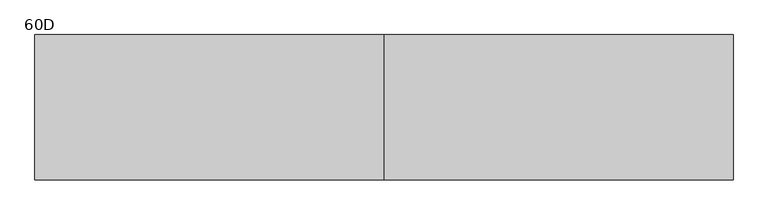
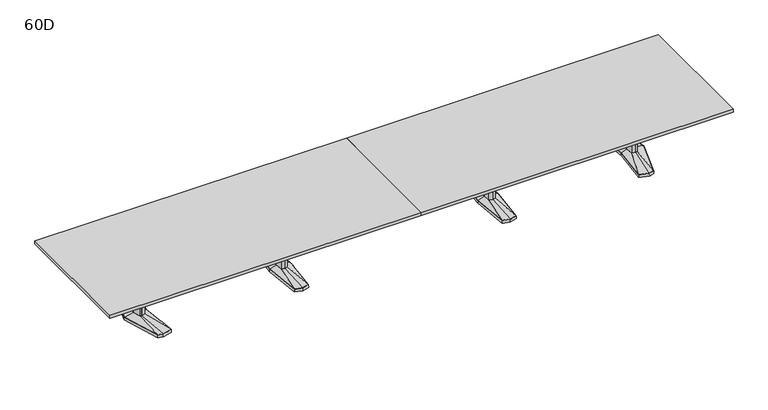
"""IFC4 building model written with IfcOpenShell, lengths in millimetres: furniture geometry, Coalesse_AM_Table_Conference_ETable2_Rectangular_24ft_AluminiumBase : 60D."""

from ifc_helpers import new_model, si_unit, frame, origin, place, context, project, spatial, polyline, outline, extrude, faceted_brep, source, transform, mapped, element, save
from ifc_brep_helpers import plane_surface, spline_surface, advanced_brep


def furniture_60d_1739f9b0(model_context):
    return source(origin(), model_context, "Body", "SolidModel", [
        faceted_brep([(1137.9666209, -433.8053819, 38.1), (1219.2, -455.556576, 38.1), (1300.4333791, -433.8053819, 38.1), (1338.2564774, 0.0, 38.1), (1300.4333791, 433.8053819, 38.1), (1219.2, 455.556576, 38.1), (1137.9666209, 433.8053819, 38.1), (1100.1435226, 0.0, 38.1), (1136.4817205, -435.0512063, 3.175), (1098.55, 0.0, 3.175), (1136.4817205, 435.0512063, 3.175), (1219.2, 457.2, 3.175), (1301.9182795, 435.0512063, 3.175), (1339.85, 0.0, 3.175), (1301.9182795, -435.0512063, 3.175), (1219.2, -457.2, 3.175), (1219.2, 429.2617927, 3.175), (1141.2323194, 408.3850278, 3.175), (1144.4980179, 382.9646737, 3.175), (1219.2, 402.9670094, 3.175), (1293.9019821, 382.9646737, 3.175), (1297.1676806, 408.3850278, 3.175), (1219.2, -429.2617927, 3.175), (1297.1676806, -408.3850278, 3.175), (1293.9019821, -382.9646737, 3.175), (1219.2, -402.9670094, 3.175), (1144.4980179, -382.9646737, 3.175), (1141.2323194, -408.3850278, 3.175), (1147.3425738, 114.6326257, 3.175), (1136.6573924, 0.0, 3.175), (1147.3425738, -114.6326257, 3.175), (1219.2, -133.8761372, 3.175), (1291.0574262, -114.6326257, 3.175), (1301.7426076, 0.0, 3.175), (1291.0574262, 114.6326257, 3.175), (1219.2, 133.8761372, 3.175), (1219.2, 429.2617927, 0.0), (1297.1676806, 408.3850278, 0.0), (1293.9019821, 382.9646737, 0.0), (1219.2, 402.9670094, 0.0), (1144.4980179, 382.9646737, 0.0), (1141.2323194, 408.3850278, 0.0), (1219.2, -429.2617927, 0.0), (1141.2323194, -408.3850278, 0.0), (1144.4980179, -382.9646737, 0.0), (1219.2, -402.9670094, 0.0), (1293.9019821, -382.9646737, 0.0), (1297.1676806, -408.3850278, 0.0), (1147.3425738, 114.6326257, 0.0), (1219.2, 133.8761372, 0.0), (1291.0574262, 114.6326257, 0.0), (1301.7426076, 0.0, 0.0), (1291.0574262, -114.6326257, 0.0), (1219.2, -133.8761372, 0.0), (1147.3425738, -114.6326257, 0.0), (1136.6573924, 0.0, 0.0)], [[[0, 1, 2, 3, 4, 5, 6, 7]], [[8, 9, 10, 11, 12, 13, 14, 15], [16, 17, 18, 19, 20, 21], [22, 23, 24, 25, 26, 27], [28, 29, 30, 31, 32, 33, 34, 35]], [[1, 0, 8, 15]], [[2, 1, 15, 14]], [[3, 2, 14, 13]], [[4, 3, 13, 12]], [[5, 4, 12, 11]], [[6, 5, 11, 10]], [[7, 6, 10, 9]], [[0, 7, 9, 8]], [[36, 37, 38, 39, 40, 41]], [[42, 43, 44, 45, 46, 47]], [[48, 49, 50, 51, 52, 53, 54, 55]], [[36, 41, 17, 16]], [[41, 40, 18, 17]], [[40, 39, 19, 18]], [[39, 38, 20, 19]], [[38, 37, 21, 20]], [[37, 36, 16, 21]], [[42, 47, 23, 22]], [[47, 46, 24, 23]], [[46, 45, 25, 24]], [[45, 44, 26, 25]], [[44, 43, 27, 26]], [[43, 42, 22, 27]], [[48, 55, 29, 28]], [[55, 54, 30, 29]], [[54, 53, 31, 30]], [[53, 52, 32, 31]], [[52, 51, 33, 32]], [[51, 50, 34, 33]], [[50, 49, 35, 34]], [[49, 48, 28, 35]]]),
        faceted_brep([(1182.8167166, 84.6900825, 698.5), (1174.9225513, 0.0, 698.5), (1182.8167166, -84.6900825, 698.5), (1219.2, -94.4335728, 698.5), (1255.5832834, -84.6900825, 698.5), (1263.4774487, 0.0, 698.5), (1255.5832834, 84.6900825, 698.5), (1219.2, 94.4335728, 698.5), (1182.8167166, 84.6900825, 63.5), (1219.2, 94.4335728, 63.5), (1255.5832834, 84.6900825, 63.5), (1263.4774487, 0.0, 63.5), (1255.5832834, -84.6900825, 63.5), (1219.2, -94.4335728, 63.5), (1182.8167166, -84.6900825, 63.5), (1174.9225513, 0.0, 63.5)], [[[0, 1, 2, 3, 4, 5, 6, 7]], [[8, 9, 10, 11, 12, 13, 14, 15]], [[1, 0, 8, 15]], [[2, 1, 15, 14]], [[3, 2, 14, 13]], [[4, 3, 13, 12]], [[5, 4, 12, 11]], [[6, 5, 11, 10]], [[7, 6, 10, 9]], [[0, 7, 9, 8]]]),
        advanced_brep(
        [(1182.8167166, 84.6900825, 63.5), (1174.9225513, 0.0, 63.5), (1182.8167166, -84.6900825, 63.5), (1219.2, -94.4335728, 63.5), (1255.5832834, -84.6900825, 63.5), (1263.4774487, 0.0, 63.5), (1255.5832834, 84.6900825, 63.5), (1219.2, 94.4335728, 63.5), (1137.9666209, 433.8053819, 38.1), (1219.2, 455.556576, 38.1), (1300.4333791, 433.8053819, 38.1), (1338.2564774, 0.0, 38.1), (1300.4333791, -433.8053819, 38.1), (1219.2, -455.556576, 38.1), (1137.9666209, -433.8053819, 38.1), (1100.1435226, 0.0, 38.1)],
        [
            (0, 1),
            (1, 2),
            (2, 3),
            (3, 4),
            (4, 5),
            (5, 6),
            (6, 7),
            (7, 0),
            (8, 9),
            (9, 10),
            (10, 11),
            (11, 12),
            (12, 13),
            (13, 14),
            (14, 15),
            (15, 8),
            (15, 1),
            (0, 8),
            (14, 2),
            (13, 3),
            (12, 4),
            (11, 5),
            (10, 6),
            (9, 7),
        ],
        [
            plane_surface(frame((1219.2, 0.0, 63.5), z_axis=(0.0, 0.0, 1.0000000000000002), x_axis=(-0.9659615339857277, -0.25868574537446, 0.0))),
            plane_surface(frame((1219.2, 0.0, 38.1), z_axis=(0.0, 0.0, -1.0000000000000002), x_axis=(-0.9659615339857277, -0.25868574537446, 0.0))),
            spline_surface(1, 1, [[(1137.9666209, 433.8053819, 38.1), (1182.8167166, 84.6900825, 63.5)], [(1100.1435226, 0.0, 38.1), (1174.9225513, 0.0, 63.5)]], [2, 2], [2, 2], [0.0, 1.0], [0.0, 1.0]),
            spline_surface(1, 1, [[(1100.1435226, 0.0, 38.1), (1174.9225513, 0.0, 63.5)], [(1137.9666209, -433.8053819, 38.1), (1182.8167166, -84.6900825, 63.5)]], [2, 2], [2, 2], [0.0, 1.0], [0.0, 1.0]),
            spline_surface(1, 1, [[(1137.9666209, -433.8053819, 38.1), (1182.8167166, -84.6900825, 63.5)], [(1219.2, -455.556576, 38.1), (1219.2, -94.4335728, 63.5)]], [2, 2], [2, 2], [0.0, 1.0], [0.0, 1.0]),
            spline_surface(1, 1, [[(1219.2, -455.556576, 38.1), (1219.2, -94.4335728, 63.5)], [(1300.4333791, -433.8053819, 38.1), (1255.5832834, -84.6900825, 63.5)]], [2, 2], [2, 2], [0.0, 1.0], [0.0, 1.0]),
            spline_surface(1, 1, [[(1300.4333791, -433.8053819, 38.1), (1255.5832834, -84.6900825, 63.5)], [(1338.2564774, 0.0, 38.1), (1263.4774487, 0.0, 63.5)]], [2, 2], [2, 2], [0.0, 1.0], [0.0, 1.0]),
            spline_surface(1, 1, [[(1338.2564774, 0.0, 38.1), (1263.4774487, 0.0, 63.5)], [(1300.4333791, 433.8053819, 38.1), (1255.5832834, 84.6900825, 63.5)]], [2, 2], [2, 2], [0.0, 1.0], [0.0, 1.0]),
            spline_surface(1, 1, [[(1300.4333791, 433.8053819, 38.1), (1255.5832834, 84.6900825, 63.5)], [(1219.2, 455.556576, 38.1), (1219.2, 94.4335728, 63.5)]], [2, 2], [2, 2], [0.0, 1.0], [0.0, 1.0]),
            spline_surface(1, 1, [[(1219.2, 455.556576, 38.1), (1219.2, 94.4335728, 63.5)], [(1137.9666209, 433.8053819, 38.1), (1182.8167166, 84.6900825, 63.5)]], [2, 2], [2, 2], [0.0, 1.0], [0.0, 1.0]),
        ],
        [
            (0, [[1, 2, 3, 4, 5, 6, 7, 8]]),
            (1, [[9, 10, 11, 12, 13, 14, 15, 16]]),
            (2, [[-16, 17, -1, 18]]),
            (3, [[-15, 19, -2, -17]]),
            (4, [[-14, 20, -3, -19]]),
            (5, [[-13, 21, -4, -20]]),
            (6, [[-12, 22, -5, -21]]),
            (7, [[-11, 23, -6, -22]]),
            (8, [[-10, 24, -7, -23]]),
            (9, [[-9, -18, -8, -24]]),
        ],
    ),
        faceted_brep([(-1300.4333791, -433.8053819, 38.1), (-1219.2, -455.556576, 38.1), (-1137.9666209, -433.8053819, 38.1), (-1100.1435226, 0.0, 38.1), (-1137.9666209, 433.8053819, 38.1), (-1219.2, 455.556576, 38.1), (-1300.4333791, 433.8053819, 38.1), (-1338.2564774, 0.0, 38.1), (-1301.9182795, -435.0512063, 3.175), (-1339.85, 0.0, 3.175), (-1301.9182795, 435.0512063, 3.175), (-1219.2, 457.2, 3.175), (-1136.4817205, 435.0512063, 3.175), (-1098.55, 0.0, 3.175), (-1136.4817205, -435.0512063, 3.175), (-1219.2, -457.2, 3.175), (-1219.2, 429.2617927, 3.175), (-1297.1676806, 408.3850278, 3.175), (-1293.9019821, 382.9646737, 3.175), (-1219.2, 402.9670094, 3.175), (-1144.4980179, 382.9646737, 3.175), (-1141.2323194, 408.3850278, 3.175), (-1219.2, -429.2617927, 3.175), (-1141.2323194, -408.3850278, 3.175), (-1144.4980179, -382.9646737, 3.175), (-1219.2, -402.9670094, 3.175), (-1293.9019821, -382.9646737, 3.175), (-1297.1676806, -408.3850278, 3.175), (-1291.0574262, 114.6326257, 3.175), (-1301.7426076, 0.0, 3.175), (-1291.0574262, -114.6326257, 3.175), (-1219.2, -133.8761372, 3.175), (-1147.3425738, -114.6326257, 3.175), (-1136.6573924, 0.0, 3.175), (-1147.3425738, 114.6326257, 3.175), (-1219.2, 133.8761372, 3.175), (-1219.2, 429.2617927, 0.0), (-1141.2323194, 408.3850278, 0.0), (-1144.4980179, 382.9646737, 0.0), (-1219.2, 402.9670094, 0.0), (-1293.9019821, 382.9646737, 0.0), (-1297.1676806, 408.3850278, 0.0), (-1219.2, -429.2617927, 0.0), (-1297.1676806, -408.3850278, 0.0), (-1293.9019821, -382.9646737, 0.0), (-1219.2, -402.9670094, 0.0), (-1144.4980179, -382.9646737, 0.0), (-1141.2323194, -408.3850278, 0.0), (-1291.0574262, 114.6326257, 0.0), (-1219.2, 133.8761372, 0.0), (-1147.3425738, 114.6326257, 0.0), (-1136.6573924, 0.0, 0.0), (-1147.3425738, -114.6326257, 0.0), (-1219.2, -133.8761372, 0.0), (-1291.0574262, -114.6326257, 0.0), (-1301.7426076, 0.0, 0.0)], [[[0, 1, 2, 3, 4, 5, 6, 7]], [[8, 9, 10, 11, 12, 13, 14, 15], [16, 17, 18, 19, 20, 21], [22, 23, 24, 25, 26, 27], [28, 29, 30, 31, 32, 33, 34, 35]], [[1, 0, 8, 15]], [[2, 1, 15, 14]], [[3, 2, 14, 13]], [[4, 3, 13, 12]], [[5, 4, 12, 11]], [[6, 5, 11, 10]], [[7, 6, 10, 9]], [[0, 7, 9, 8]], [[36, 37, 38, 39, 40, 41]], [[42, 43, 44, 45, 46, 47]], [[48, 49, 50, 51, 52, 53, 54, 55]], [[36, 41, 17, 16]], [[41, 40, 18, 17]], [[40, 39, 19, 18]], [[39, 38, 20, 19]], [[38, 37, 21, 20]], [[37, 36, 16, 21]], [[42, 47, 23, 22]], [[47, 46, 24, 23]], [[46, 45, 25, 24]], [[45, 44, 26, 25]], [[44, 43, 27, 26]], [[43, 42, 22, 27]], [[48, 55, 29, 28]], [[55, 54, 30, 29]], [[54, 53, 31, 30]], [[53, 52, 32, 31]], [[52, 51, 33, 32]], [[51, 50, 34, 33]], [[50, 49, 35, 34]], [[49, 48, 28, 35]]]),
        faceted_brep([(-1255.5832834, 84.6900825, 698.5), (-1263.4774487, 0.0, 698.5), (-1255.5832834, -84.6900825, 698.5), (-1219.2, -94.4335728, 698.5), (-1182.8167166, -84.6900825, 698.5), (-1174.9225513, 0.0, 698.5), (-1182.8167166, 84.6900825, 698.5), (-1219.2, 94.4335728, 698.5), (-1255.5832834, 84.6900825, 63.5), (-1219.2, 94.4335728, 63.5), (-1182.8167166, 84.6900825, 63.5), (-1174.9225513, 0.0, 63.5), (-1182.8167166, -84.6900825, 63.5), (-1219.2, -94.4335728, 63.5), (-1255.5832834, -84.6900825, 63.5), (-1263.4774487, 0.0, 63.5)], [[[0, 1, 2, 3, 4, 5, 6, 7]], [[8, 9, 10, 11, 12, 13, 14, 15]], [[1, 0, 8, 15]], [[2, 1, 15, 14]], [[3, 2, 14, 13]], [[4, 3, 13, 12]], [[5, 4, 12, 11]], [[6, 5, 11, 10]], [[7, 6, 10, 9]], [[0, 7, 9, 8]]]),
        advanced_brep(
        [(-1255.5832834, 84.6900825, 63.5), (-1263.4774487, 0.0, 63.5), (-1255.5832834, -84.6900825, 63.5), (-1219.2, -94.4335728, 63.5), (-1182.8167166, -84.6900825, 63.5), (-1174.9225513, 0.0, 63.5), (-1182.8167166, 84.6900825, 63.5), (-1219.2, 94.4335728, 63.5), (-1300.4333791, 433.8053819, 38.1), (-1219.2, 455.556576, 38.1), (-1137.9666209, 433.8053819, 38.1), (-1100.1435226, 0.0, 38.1), (-1137.9666209, -433.8053819, 38.1), (-1219.2, -455.556576, 38.1), (-1300.4333791, -433.8053819, 38.1), (-1338.2564774, 0.0, 38.1)],
        [
            (0, 1),
            (1, 2),
            (2, 3),
            (3, 4),
            (4, 5),
            (5, 6),
            (6, 7),
            (7, 0),
            (8, 9),
            (9, 10),
            (10, 11),
            (11, 12),
            (12, 13),
            (13, 14),
            (14, 15),
            (15, 8),
            (15, 1),
            (0, 8),
            (14, 2),
            (13, 3),
            (12, 4),
            (11, 5),
            (10, 6),
            (9, 7),
        ],
        [
            plane_surface(frame((-1219.2, 0.0, 63.5), z_axis=(0.0, 0.0, 1.0000000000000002), x_axis=(-0.9659615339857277, -0.25868574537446, 0.0))),
            plane_surface(frame((-1219.2, 0.0, 38.1), z_axis=(0.0, 0.0, -1.0000000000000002), x_axis=(-0.9659615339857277, -0.25868574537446, 0.0))),
            spline_surface(1, 1, [[(-1300.4333791, 433.8053819, 38.1), (-1255.5832834, 84.6900825, 63.5)], [(-1338.2564774, 0.0, 38.1), (-1263.4774487, 0.0, 63.5)]], [2, 2], [2, 2], [0.0, 1.0], [0.0, 1.0]),
            spline_surface(1, 1, [[(-1338.2564774, 0.0, 38.1), (-1263.4774487, 0.0, 63.5)], [(-1300.4333791, -433.8053819, 38.1), (-1255.5832834, -84.6900825, 63.5)]], [2, 2], [2, 2], [0.0, 1.0], [0.0, 1.0]),
            spline_surface(1, 1, [[(-1300.4333791, -433.8053819, 38.1), (-1255.5832834, -84.6900825, 63.5)], [(-1219.2, -455.556576, 38.1), (-1219.2, -94.4335728, 63.5)]], [2, 2], [2, 2], [0.0, 1.0], [0.0, 1.0]),
            spline_surface(1, 1, [[(-1219.2, -455.556576, 38.1), (-1219.2, -94.4335728, 63.5)], [(-1137.9666209, -433.8053819, 38.1), (-1182.8167166, -84.6900825, 63.5)]], [2, 2], [2, 2], [0.0, 1.0], [0.0, 1.0]),
            spline_surface(1, 1, [[(-1137.9666209, -433.8053819, 38.1), (-1182.8167166, -84.6900825, 63.5)], [(-1100.1435226, 0.0, 38.1), (-1174.9225513, 0.0, 63.5)]], [2, 2], [2, 2], [0.0, 1.0], [0.0, 1.0]),
            spline_surface(1, 1, [[(-1100.1435226, 0.0, 38.1), (-1174.9225513, 0.0, 63.5)], [(-1137.9666209, 433.8053819, 38.1), (-1182.8167166, 84.6900825, 63.5)]], [2, 2], [2, 2], [0.0, 1.0], [0.0, 1.0]),
            spline_surface(1, 1, [[(-1137.9666209, 433.8053819, 38.1), (-1182.8167166, 84.6900825, 63.5)], [(-1219.2, 455.556576, 38.1), (-1219.2, 94.4335728, 63.5)]], [2, 2], [2, 2], [0.0, 1.0], [0.0, 1.0]),
            spline_surface(1, 1, [[(-1219.2, 455.556576, 38.1), (-1219.2, 94.4335728, 63.5)], [(-1300.4333791, 433.8053819, 38.1), (-1255.5832834, 84.6900825, 63.5)]], [2, 2], [2, 2], [0.0, 1.0], [0.0, 1.0]),
        ],
        [
            (0, [[1, 2, 3, 4, 5, 6, 7, 8]]),
            (1, [[9, 10, 11, 12, 13, 14, 15, 16]]),
            (2, [[-16, 17, -1, 18]]),
            (3, [[-15, 19, -2, -17]]),
            (4, [[-14, 20, -3, -19]]),
            (5, [[-13, 21, -4, -20]]),
            (6, [[-12, 22, -5, -21]]),
            (7, [[-11, 23, -6, -22]]),
            (8, [[-10, 24, -7, -23]]),
            (9, [[-9, -18, -8, -24]]),
        ],
    ),
        faceted_brep([(2852.8994335, 455.5848221, 38.1), (2743.3218777, 426.2263816, 38.1), (2784.4851217, 0.0, 38.1), (2743.3218777, -426.2263816, 38.1), (2852.8994335, -455.5848221, 38.1), (2909.0257896, -440.5478297, 38.1), (3046.3371769, 0.0, 38.1), (2909.0257896, 440.5478297, 38.1), (2852.8994254, 457.2283104, 3.175), (2910.2811972, 441.8549756, 3.175), (3048.0, 0.0, 3.175), (2910.2811972, -441.8549756, 3.175), (2852.8994254, -457.2283104, 3.175), (2741.6125, -427.4118891, 3.175), (2782.8902356, 0.0, 3.175), (2741.6125, 427.4118891, 3.175), (2856.488865, 428.3273875, 3.175), (2751.4405728, 402.1057253, 3.175), (2759.559268, 377.985069, 3.175), (2860.0782966, 401.0699529, 3.175), (2910.6379225, 387.524361, 3.175), (2909.8318561, 414.0360954, 3.175), (2856.488865, -428.3273875, 3.175), (2909.8318561, -414.0360954, 3.175), (2910.6379225, -387.524361, 3.175), (2860.0782966, -401.0699529, 3.175), (2759.559268, -377.985069, 3.175), (2751.4405728, -402.1057253, 3.175), (2983.0841121, 0.0, 3.175), (2950.8147111, 120.4193755, 3.175), (2902.1674722, 133.471665, 3.175), (2822.2868026, 119.4176561, 3.175), (2811.1555966, 0.0, 3.175), (2822.2868026, -119.4176561, 3.175), (2902.1674722, -133.471665, 3.175), (2950.8147111, -120.4193755, 3.175), (2856.488865, 428.3273875, 0.0), (2909.8318561, 414.0360954, 0.0), (2910.6379225, 387.524361, 0.0), (2860.0782966, 401.0699529, 0.0), (2759.559268, 377.985069, 0.0), (2751.4405728, 402.1057253, 0.0), (2856.488865, -428.3273875, 0.0), (2751.4405728, -402.1057253, 0.0), (2759.559268, -377.985069, 0.0), (2860.0782966, -401.0699529, 0.0), (2910.6379225, -387.524361, 0.0), (2909.8318561, -414.0360954, 0.0), (2983.0841121, 0.0, 0.0), (2950.8147111, -120.4193755, 0.0), (2902.1674722, -133.471665, 0.0), (2822.2868026, -119.4176561, 0.0), (2811.1555966, 0.0, 0.0), (2822.2868026, 119.4176561, 0.0), (2902.1674722, 133.471665, 0.0), (2950.8147111, 120.4193755, 0.0)], [[[0, 1, 2, 3, 4, 5, 6, 7]], [[8, 9, 10, 11, 12, 13, 14, 15], [16, 17, 18, 19, 20, 21], [22, 23, 24, 25, 26, 27], [28, 29, 30, 31, 32, 33, 34, 35]], [[7, 9, 8, 0]], [[6, 10, 9, 7]], [[5, 11, 10, 6]], [[4, 12, 11, 5]], [[3, 13, 12, 4]], [[2, 14, 13, 3]], [[1, 15, 14, 2]], [[0, 8, 15, 1]], [[36, 37, 38, 39, 40, 41]], [[42, 43, 44, 45, 46, 47]], [[48, 49, 50, 51, 52, 53, 54, 55]], [[36, 16, 21, 37]], [[37, 21, 20, 38]], [[38, 20, 19, 39]], [[39, 19, 18, 40]], [[40, 18, 17, 41]], [[41, 17, 16, 36]], [[42, 22, 27, 43]], [[43, 27, 26, 44]], [[44, 26, 25, 45]], [[45, 25, 24, 46]], [[46, 24, 23, 47]], [[47, 23, 22, 42]], [[48, 28, 35, 49]], [[49, 35, 34, 50]], [[50, 34, 33, 51]], [[51, 33, 32, 52]], [[52, 32, 31, 53]], [[53, 31, 30, 54]], [[54, 30, 29, 55]], [[55, 29, 28, 48]]]),
        faceted_brep([(2943.6398336, 0.0, 698.5), (2919.7046046, 89.3188359, 698.5), (2902.8512484, 93.8406728, 698.5), (2900.4514011, 94.4845635, 698.5), (2857.523896, 86.9320037, 698.5), (2849.4207556, 0.0, 698.5), (2857.523896, -86.9320037, 698.5), (2900.4514011, -94.4845635, 698.5), (2902.8512484, -93.8406728, 698.5), (2919.7046046, -89.3188359, 698.5), (2943.6398336, 0.0, 63.5), (2919.7046046, -89.3188359, 63.5), (2902.8512484, -93.8406728, 63.5), (2900.4514011, -94.4845635, 63.5), (2857.523896, -86.9320037, 63.5), (2849.4207556, 0.0, 63.5), (2857.523896, 86.9320037, 63.5), (2900.4514011, 94.4845635, 63.5), (2902.8512484, 93.8406728, 63.5), (2919.7046046, 89.3188359, 63.5)], [[[0, 1, 2, 3, 4, 5, 6, 7, 8, 9]], [[10, 11, 12, 13, 14, 15, 16, 17, 18, 19]], [[9, 11, 10, 0]], [[8, 12, 11, 9]], [[7, 13, 12, 8]], [[6, 14, 13, 7]], [[5, 15, 14, 6]], [[4, 16, 15, 5]], [[3, 17, 16, 4]], [[2, 18, 17, 3]], [[1, 19, 18, 2]], [[0, 10, 19, 1]]]),
        advanced_brep(
        [(2900.4514011, 94.4845635, 63.5), (2857.523896, 86.9320037, 63.5), (2849.4207556, 0.0, 63.5), (2857.523896, -86.9320037, 63.5), (2900.4514011, -94.4845635, 63.5), (2919.7046046, -89.3188359, 63.5), (2943.6398336, 0.0, 63.5), (2919.7046046, 89.3188359, 63.5), (2852.8994335, 455.5848221, 38.1), (2909.0257896, 440.5478297, 38.1), (3046.3371769, 0.0, 38.1), (2909.0257896, -440.5478297, 38.1), (2852.8994335, -455.5848221, 38.1), (2743.3218777, -426.2263816, 38.1), (2784.4851217, 0.0, 38.1), (2743.3218777, 426.2263816, 38.1)],
        [
            (0, 1),
            (1, 2),
            (2, 3),
            (3, 4),
            (4, 5),
            (5, 6),
            (6, 7),
            (7, 0),
            (8, 9),
            (9, 10),
            (10, 11),
            (11, 12),
            (12, 13),
            (13, 14),
            (14, 15),
            (15, 8),
            (8, 0),
            (7, 9),
            (6, 10),
            (5, 11),
            (4, 12),
            (3, 13),
            (2, 14),
            (1, 15),
        ],
        [
            plane_surface(frame((2893.5525491, 0.0, 63.5), z_axis=(0.0, 0.0, 1.0), x_axis=(-0.25884244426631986, -0.9659195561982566, 0.0))),
            plane_surface(frame((2855.1645625, 0.0, 38.1), z_axis=(0.0, 0.0, -1.0), x_axis=(-0.25884244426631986, -0.9659195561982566, 0.0))),
            spline_surface(1, 1, [[(2852.8994335, 455.5848221, 38.1), (2909.0257896, 440.5478297, 38.1)], [(2900.4514011, 94.4845635, 63.5), (2919.7046046, 89.3188359, 63.5)]], [2, 2], [2, 2], [0.0, 1.0], [0.0, 1.0]),
            spline_surface(1, 1, [[(2909.0257896, 440.5478297, 38.1), (3046.3371769, 0.0, 38.1)], [(2919.7046046, 89.3188359, 63.5), (2943.6398336, 0.0, 63.5)]], [2, 2], [2, 2], [0.0, 1.0], [0.0, 1.0]),
            spline_surface(1, 1, [[(3046.3371769, 0.0, 38.1), (2909.0257896, -440.5478297, 38.1)], [(2943.6398336, 0.0, 63.5), (2919.7046046, -89.3188359, 63.5)]], [2, 2], [2, 2], [0.0, 1.0], [0.0, 1.0]),
            spline_surface(1, 1, [[(2909.0257896, -440.5478297, 38.1), (2852.8994335, -455.5848221, 38.1)], [(2919.7046046, -89.3188359, 63.5), (2900.4514011, -94.4845635, 63.5)]], [2, 2], [2, 2], [0.0, 1.0], [0.0, 1.0]),
            spline_surface(1, 1, [[(2852.8994335, -455.5848221, 38.1), (2743.3218777, -426.2263816, 38.1)], [(2900.4514011, -94.4845635, 63.5), (2857.523896, -86.9320037, 63.5)]], [2, 2], [2, 2], [0.0, 1.0], [0.0, 1.0]),
            spline_surface(1, 1, [[(2743.3218777, -426.2263816, 38.1), (2784.4851217, 0.0, 38.1)], [(2857.523896, -86.9320037, 63.5), (2849.4207556, 0.0, 63.5)]], [2, 2], [2, 2], [0.0, 1.0], [0.0, 1.0]),
            spline_surface(1, 1, [[(2784.4851217, 0.0, 38.1), (2743.3218777, 426.2263816, 38.1)], [(2849.4207556, 0.0, 63.5), (2857.523896, 86.9320037, 63.5)]], [2, 2], [2, 2], [0.0, 1.0], [0.0, 1.0]),
            spline_surface(1, 1, [[(2743.3218777, 426.2263816, 38.1), (2852.8994335, 455.5848221, 38.1)], [(2857.523896, 86.9320037, 63.5), (2900.4514011, 94.4845635, 63.5)]], [2, 2], [2, 2], [0.0, 1.0], [0.0, 1.0]),
        ],
        [
            (0, [[1, 2, 3, 4, 5, 6, 7, 8]]),
            (1, [[9, 10, 11, 12, 13, 14, 15, 16]]),
            (2, [[17, -8, 18, -9]]),
            (3, [[-18, -7, 19, -10]]),
            (4, [[-19, -6, 20, -11]]),
            (5, [[-20, -5, 21, -12]]),
            (6, [[-21, -4, 22, -13]]),
            (7, [[-22, -3, 23, -14]]),
            (8, [[-23, -2, 24, -15]]),
            (9, [[-24, -1, -17, -16]]),
        ],
    ),
        faceted_brep([(-2852.8994335, 455.5848221, 38.1), (-2909.0257896, 440.5478297, 38.1), (-3046.3371769, 0.0, 38.1), (-2909.0257896, -440.5478297, 38.1), (-2852.8994335, -455.5848221, 38.1), (-2743.3218777, -426.2263816, 38.1), (-2784.4851217, 0.0, 38.1), (-2743.3218777, 426.2263816, 38.1), (-2852.8994254, 457.2283104, 3.175), (-2741.6125, 427.4118891, 3.175), (-2782.8902356, 0.0, 3.175), (-2741.6125, -427.4118891, 3.175), (-2852.8994254, -457.2283104, 3.175), (-2910.2811972, -441.8549756, 3.175), (-3048.0, 0.0, 3.175), (-2910.2811972, 441.8549756, 3.175), (-2856.488865, 428.3273875, 3.175), (-2909.8318561, 414.0360954, 3.175), (-2910.6379225, 387.524361, 3.175), (-2860.0782966, 401.0699529, 3.175), (-2759.559268, 377.985069, 3.175), (-2751.4405728, 402.1057253, 3.175), (-2856.488865, -428.3273875, 3.175), (-2751.4405728, -402.1057253, 3.175), (-2759.559268, -377.985069, 3.175), (-2860.0782966, -401.0699529, 3.175), (-2910.6379225, -387.524361, 3.175), (-2909.8318561, -414.0360954, 3.175), (-2983.0841121, 0.0, 3.175), (-2950.8147111, -120.4193755, 3.175), (-2902.1674722, -133.471665, 3.175), (-2822.2868026, -119.4176561, 3.175), (-2811.1555966, 0.0, 3.175), (-2822.2868026, 119.4176561, 3.175), (-2902.1674722, 133.471665, 3.175), (-2950.8147111, 120.4193755, 3.175), (-2856.488865, 428.3273875, 0.0), (-2751.4405728, 402.1057253, 0.0), (-2759.559268, 377.985069, 0.0), (-2860.0782966, 401.0699529, 0.0), (-2910.6379225, 387.524361, 0.0), (-2909.8318561, 414.0360954, 0.0), (-2856.488865, -428.3273875, 0.0), (-2909.8318561, -414.0360954, 0.0), (-2910.6379225, -387.524361, 0.0), (-2860.0782966, -401.0699529, 0.0), (-2759.559268, -377.985069, 0.0), (-2751.4405728, -402.1057253, 0.0), (-2983.0841121, 0.0, 0.0), (-2950.8147111, 120.4193755, 0.0), (-2902.1674722, 133.471665, 0.0), (-2822.2868026, 119.4176561, 0.0), (-2811.1555966, 0.0, 0.0), (-2822.2868026, -119.4176561, 0.0), (-2902.1674722, -133.471665, 0.0), (-2950.8147111, -120.4193755, 0.0)], [[[0, 1, 2, 3, 4, 5, 6, 7]], [[8, 9, 10, 11, 12, 13, 14, 15], [16, 17, 18, 19, 20, 21], [22, 23, 24, 25, 26, 27], [28, 29, 30, 31, 32, 33, 34, 35]], [[1, 0, 8, 15]], [[2, 1, 15, 14]], [[3, 2, 14, 13]], [[4, 3, 13, 12]], [[5, 4, 12, 11]], [[6, 5, 11, 10]], [[7, 6, 10, 9]], [[0, 7, 9, 8]], [[36, 37, 38, 39, 40, 41]], [[42, 43, 44, 45, 46, 47]], [[48, 49, 50, 51, 52, 53, 54, 55]], [[36, 41, 17, 16]], [[41, 40, 18, 17]], [[40, 39, 19, 18]], [[39, 38, 20, 19]], [[38, 37, 21, 20]], [[37, 36, 16, 21]], [[42, 47, 23, 22]], [[47, 46, 24, 23]], [[46, 45, 25, 24]], [[45, 44, 26, 25]], [[44, 43, 27, 26]], [[43, 42, 22, 27]], [[48, 55, 29, 28]], [[55, 54, 30, 29]], [[54, 53, 31, 30]], [[53, 52, 32, 31]], [[52, 51, 33, 32]], [[51, 50, 34, 33]], [[50, 49, 35, 34]], [[49, 48, 28, 35]]]),
        faceted_brep([(-2943.6398336, 0.0, 698.5), (-2919.7046046, -89.3188359, 698.5), (-2902.8512484, -93.8406728, 698.5), (-2900.4514011, -94.4845635, 698.5), (-2857.523896, -86.9320037, 698.5), (-2849.4207556, 0.0, 698.5), (-2857.523896, 86.9320037, 698.5), (-2900.4514011, 94.4845635, 698.5), (-2902.8512484, 93.8406728, 698.5), (-2919.7046046, 89.3188359, 698.5), (-2943.6398336, 0.0, 63.5), (-2919.7046046, 89.3188359, 63.5), (-2902.8512484, 93.8406728, 63.5), (-2900.4514011, 94.4845635, 63.5), (-2857.523896, 86.9320037, 63.5), (-2849.4207556, 0.0, 63.5), (-2857.523896, -86.9320037, 63.5), (-2900.4514011, -94.4845635, 63.5), (-2902.8512484, -93.8406728, 63.5), (-2919.7046046, -89.3188359, 63.5)], [[[0, 1, 2, 3, 4, 5, 6, 7, 8, 9]], [[10, 11, 12, 13, 14, 15, 16, 17, 18, 19]], [[1, 0, 10, 19]], [[2, 1, 19, 18]], [[3, 2, 18, 17]], [[4, 3, 17, 16]], [[5, 4, 16, 15]], [[6, 5, 15, 14]], [[7, 6, 14, 13]], [[8, 7, 13, 12]], [[9, 8, 12, 11]], [[0, 9, 11, 10]]]),
        advanced_brep(
        [(-2900.4514011, 94.4845635, 63.5), (-2919.7046046, 89.3188359, 63.5), (-2943.6398336, 0.0, 63.5), (-2919.7046046, -89.3188359, 63.5), (-2900.4514011, -94.4845635, 63.5), (-2857.523896, -86.9320037, 63.5), (-2849.4207556, 0.0, 63.5), (-2857.523896, 86.9320037, 63.5), (-2852.8994335, 455.5848221, 38.1), (-2743.3218777, 426.2263816, 38.1), (-2784.4851217, 0.0, 38.1), (-2743.3218777, -426.2263816, 38.1), (-2852.8994335, -455.5848221, 38.1), (-2909.0257896, -440.5478297, 38.1), (-3046.3371769, 0.0, 38.1), (-2909.0257896, 440.5478297, 38.1)],
        [
            (0, 1),
            (1, 2),
            (2, 3),
            (3, 4),
            (4, 5),
            (5, 6),
            (6, 7),
            (7, 0),
            (8, 9),
            (9, 10),
            (10, 11),
            (11, 12),
            (12, 13),
            (13, 14),
            (14, 15),
            (15, 8),
            (15, 1),
            (0, 8),
            (14, 2),
            (13, 3),
            (12, 4),
            (11, 5),
            (10, 6),
            (9, 7),
        ],
        [
            plane_surface(frame((-2893.5525491, 0.0, 63.5), z_axis=(0.0, 0.0, 1.0), x_axis=(0.25884244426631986, -0.9659195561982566, 0.0))),
            plane_surface(frame((-2855.1645625, 0.0, 38.1), z_axis=(0.0, 0.0, -1.0), x_axis=(0.25884244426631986, -0.9659195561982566, 0.0))),
            spline_surface(1, 1, [[(-2852.8994335, 455.5848221, 38.1), (-2900.4514011, 94.4845635, 63.5)], [(-2909.0257896, 440.5478297, 38.1), (-2919.7046046, 89.3188359, 63.5)]], [2, 2], [2, 2], [0.0, 1.0], [0.0, 1.0]),
            spline_surface(1, 1, [[(-2909.0257896, 440.5478297, 38.1), (-2919.7046046, 89.3188359, 63.5)], [(-3046.3371769, 0.0, 38.1), (-2943.6398336, 0.0, 63.5)]], [2, 2], [2, 2], [0.0, 1.0], [0.0, 1.0]),
            spline_surface(1, 1, [[(-3046.3371769, 0.0, 38.1), (-2943.6398336, 0.0, 63.5)], [(-2909.0257896, -440.5478297, 38.1), (-2919.7046046, -89.3188359, 63.5)]], [2, 2], [2, 2], [0.0, 1.0], [0.0, 1.0]),
            spline_surface(1, 1, [[(-2909.0257896, -440.5478297, 38.1), (-2919.7046046, -89.3188359, 63.5)], [(-2852.8994335, -455.5848221, 38.1), (-2900.4514011, -94.4845635, 63.5)]], [2, 2], [2, 2], [0.0, 1.0], [0.0, 1.0]),
            spline_surface(1, 1, [[(-2852.8994335, -455.5848221, 38.1), (-2900.4514011, -94.4845635, 63.5)], [(-2743.3218777, -426.2263816, 38.1), (-2857.523896, -86.9320037, 63.5)]], [2, 2], [2, 2], [0.0, 1.0], [0.0, 1.0]),
            spline_surface(1, 1, [[(-2743.3218777, -426.2263816, 38.1), (-2857.523896, -86.9320037, 63.5)], [(-2784.4851217, 0.0, 38.1), (-2849.4207556, 0.0, 63.5)]], [2, 2], [2, 2], [0.0, 1.0], [0.0, 1.0]),
            spline_surface(1, 1, [[(-2784.4851217, 0.0, 38.1), (-2849.4207556, 0.0, 63.5)], [(-2743.3218777, 426.2263816, 38.1), (-2857.523896, 86.9320037, 63.5)]], [2, 2], [2, 2], [0.0, 1.0], [0.0, 1.0]),
            spline_surface(1, 1, [[(-2743.3218777, 426.2263816, 38.1), (-2857.523896, 86.9320037, 63.5)], [(-2852.8994335, 455.5848221, 38.1), (-2900.4514011, 94.4845635, 63.5)]], [2, 2], [2, 2], [0.0, 1.0], [0.0, 1.0]),
        ],
        [
            (0, [[1, 2, 3, 4, 5, 6, 7, 8]]),
            (1, [[9, 10, 11, 12, 13, 14, 15, 16]]),
            (2, [[-16, 17, -1, 18]]),
            (3, [[-15, 19, -2, -17]]),
            (4, [[-14, 20, -3, -19]]),
            (5, [[-13, 21, -4, -20]]),
            (6, [[-12, 22, -5, -21]]),
            (7, [[-11, 23, -6, -22]]),
            (8, [[-10, 24, -7, -23]]),
            (9, [[-9, -18, -8, -24]]),
        ],
    ),
        extrude(outline(polyline([(96.8375, 698.5), (103.1875, 698.5), (103.1875, 476.25), (-103.1875, 476.25), (-103.1875, 698.5), (-96.8375, 698.5), (-96.8375, 482.6), (96.8375, 482.6), (96.8375, 698.5)])), frame((1263.4774487, 0.0, 0.0), z_axis=(1.0, 0.0, 0.0), x_axis=(0.0, 1.0, 0.0)), (0.0, 0.0, 1.0), 1586.0850513),
        extrude(outline(polyline([(96.8375, 698.5), (103.1875, 698.5), (103.1875, 476.25), (-103.1875, 476.25), (-103.1875, 698.5), (-96.8375, 698.5), (-96.8375, 482.6), (96.8375, 482.6), (96.8375, 698.5)])), frame((-1174.9225513, 0.0, 0.0), z_axis=(1.0, 0.0, 0.0), x_axis=(0.0, 1.0, 0.0)), (0.0, 0.0, 1.0), 2349.8451026),
        extrude(outline(polyline([(3657.6, 762.0), (3657.6, -762.0), (0.0, -762.0), (0.0, 762.0), (3657.6, 762.0)])), frame((0.0, 0.0, 698.5), z_axis=(0.0, 0.0, 1.0), x_axis=(1.0, 0.0, 0.0)), (0.0, 0.0, 1.0), 38.1),
        extrude(outline(polyline([(0.0, 762.0), (0.0, -762.0), (-3657.6, -762.0), (-3657.6, 762.0), (0.0, 762.0)])), frame((0.0, 0.0, 698.5), z_axis=(0.0, 0.0, 1.0), x_axis=(1.0, 0.0, 0.0)), (0.0, 0.0, 1.0), 38.1),
        extrude(outline(polyline([(96.8375, 698.5), (103.1875, 698.5), (103.1875, 476.25), (-103.1875, 476.25), (-103.1875, 698.5), (-96.8375, 698.5), (-96.8375, 482.6), (96.8375, 482.6), (96.8375, 698.5)])), frame((-2849.5625, 0.0, 0.0), z_axis=(1.0, 0.0, 0.0), x_axis=(0.0, 1.0, 0.0)), (0.0, 0.0, 1.0), 1586.0850513),
    ])


if __name__ == "__main__":
    model = new_model("IFC4")
    model_context = context("Model", 3, world=origin())
    ifc_project = project(units=[si_unit("LENGTHUNIT", "METRE", prefix="MILLI")], contexts=[model_context])
    site = spatial("IfcSite", under=ifc_project)
    building = spatial("IfcBuilding", under=site)
    placement = place(None, origin())
    furniture_60d_shape = furniture_60d_1739f9b0(model_context)
    element("IfcFurniture", 1, ObjectType="Coalesse_AM_Table_Conference_ETable2_Rectangular_24ft_AluminiumBase : 60D", at=placement, inside=building, context=model_context, shape_type="MappedRepresentation", body=[
        mapped(furniture_60d_shape, transform((0.0, 0.0, 0.0), x_axis=(1.0, 0.0, 0.0), y_axis=(0.0, 1.0, 0.0), z_axis=(0.0, 0.0, 1.0))),
    ])
    save(model, "model.ifc")
